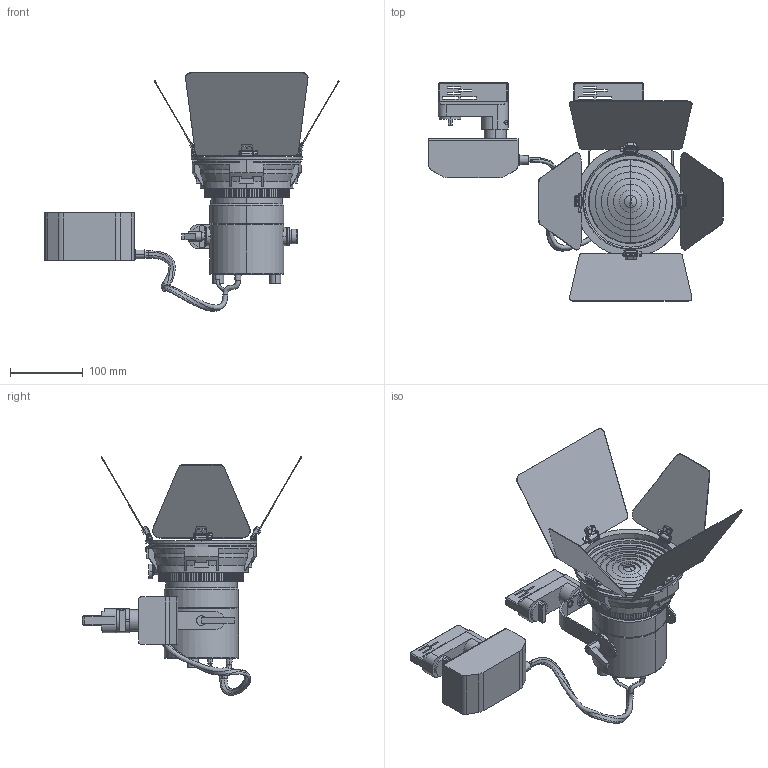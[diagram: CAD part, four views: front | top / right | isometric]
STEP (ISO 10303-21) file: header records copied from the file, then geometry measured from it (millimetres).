
FILE_DESCRIPTION (( 'STEP AP203' ), '1' );
FILE_NAME ('P3F(Track-W) Hanging.STEP', '2024-07-11T00:36:02', ( '' ), ( '' ), 'SwSTEP 2.0', 'SolidWorks 2014', '' );
FILE_SCHEMA (( 'CONFIG_CONTROL_DESIGN' ));
Length unit declared in the file: millimetre
Products named in the file (7): ONE TRACK Track Adapter (for P3F-W); P3 Color(White) - Yoke for Track and Clamp; 5 inch Fresnel Zoom Lens (for Track-W); P3F(Track-W) Hanging; P3 Color(White) - Light Body; 5 inch 4-Leaf Barndoor (for Track-W); ONE TRACK Track Adapter+90W Track Mount_Hanging (for P3F-W)
Assembly tree (6 placements, depth 2):
  P3F(Track-W) Hanging
    P3 Color(White) - Yoke for Track and Clamp
    P3 Color(White) - Light Body
    5 inch Fresnel Zoom Lens (for Track-W)
    5 inch 4-Leaf Barndoor (for Track-W)
    ONE TRACK Track Adapter (for P3F-W)
    ONE TRACK Track Adapter+90W Track Mount_Hanging (for P3F-W)
Bounding box: 403.48 x 300.67 x 327.3 mm (x, y, z)
Volume: 1988020.4 mm3; surface area: 428474.7 mm2
Topology: 35 solids, 38 shells, 1497 faces, 3862 edges, 2525 vertices
Faces by surface type: cylinder 759, plane 623, cone 89, bspline 18, torus 8
Entity records: 50109 total; most frequent: CARTESIAN_POINT 11602, DIRECTION 8336, ORIENTED_EDGE 7720, EDGE_CURVE 3860, AXIS2_PLACEMENT_3D 3179, VERTEX_POINT 2525, VECTOR 1978, LINE 1978
